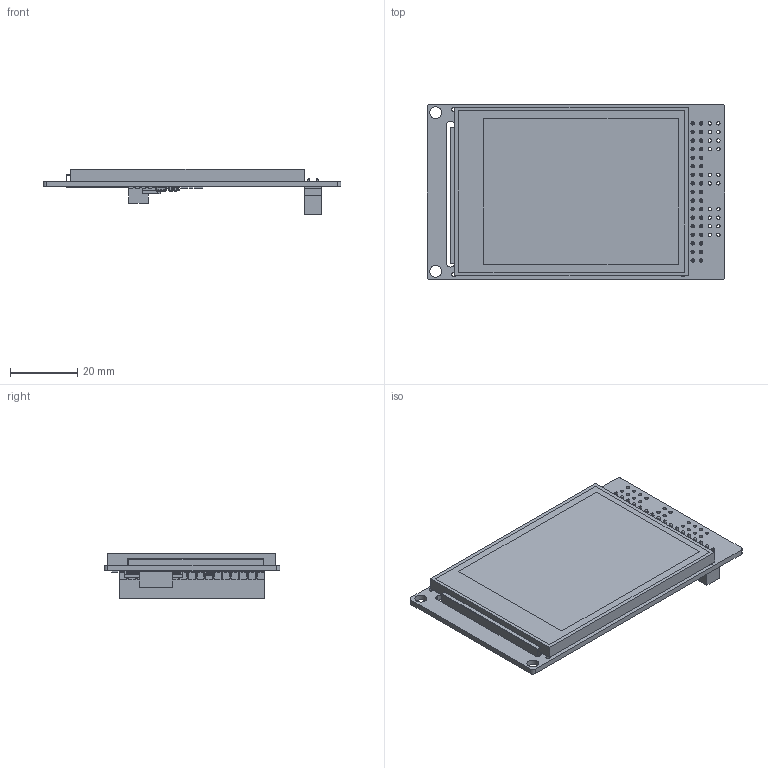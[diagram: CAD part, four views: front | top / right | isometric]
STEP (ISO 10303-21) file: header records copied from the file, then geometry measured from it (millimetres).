
FILE_DESCRIPTION(('Open CASCADE Model'),'2;1');
FILE_NAME('Open CASCADE Shape Model','2023-07-12T13:10:18',('Author'),( 'Open CASCADE'),'Open CASCADE STEP processor 7.5','Open CASCADE 7.5' ,'Unknown');
FILE_SCHEMA(('AUTOMOTIVE_DESIGN { 1 0 10303 214 1 1 1 1 }'));
Length unit declared in the file: millimetre
Products named in the file (81): PCB; Board; Open CASCADE STEP translator 7.5 1.1.1; CN3; XF2B_5145_31A; 6065127312; Extruded; 6065127152; 6065126992; C6; C0402; 6549931216; R8; R0603; 6065129552; R7; 6549834784; R6; R5; R3; R1; C3; C0603; 6549931536; R11; R14; R15; R16; R17; R18; R20; R21; R22; R23; R24; T2; SOT23-6; 6065128752; CN2; TSW-117-07-G-D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
Assembly tree (121 placements, depth 4):
  PCB
    Board
      Open CASCADE STEP translator 7.5 1.1.1
    CN3
      XF2B_5145_31A
      6065127312
        Extruded
      6065127152
        Extruded
      6065126992
        Extruded
    C6
      C0402
      6549931216
        Extruded
    R8
      R0603
      6065129552
        Extruded
    R7
      R0603
      6549834784
        Extruded
    R6
      R0603
      6549834784
        Extruded
    R5
      R0603
      6065129552
        Extruded
    R3
      R0603
      6065129552
        Extruded
    R1
      R0603
      6065129552
        Extruded
    C3
      C0603
      6549931536
        Extruded
    R11
      R0603
      6549834784
        Extruded
    R14
      R0603
      6065129552
        Extruded
    R15
      R0603
      6065129552
        Extruded
    R16
      R0603
      6065129552
        Extruded
    R17
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Bounding box: 88.27 x 52.07 x 13.62 mm (x, y, z)
Volume: 43341 mm3; surface area: 37408.4 mm2
Topology: 129 solids, 129 shells, 7617 faces, 19581 edges, 12285 vertices
Faces by surface type: plane 5518, bspline 1088, cylinder 729, sphere 230, torus 36, revolution 16
Full cylindrical faces by diameter (mm): 1 x57, 1.2 x4, 3.5 x2
Entity records: 177637 total; most frequent: CARTESIAN_POINT 39957, ORIENTED_EDGE 26506, DIRECTION 23314, EDGE_CURVE 13253, LINE 12066, VECTOR 12066, VERTEX_POINT 8413, AXIS2_PLACEMENT_3D 5620
